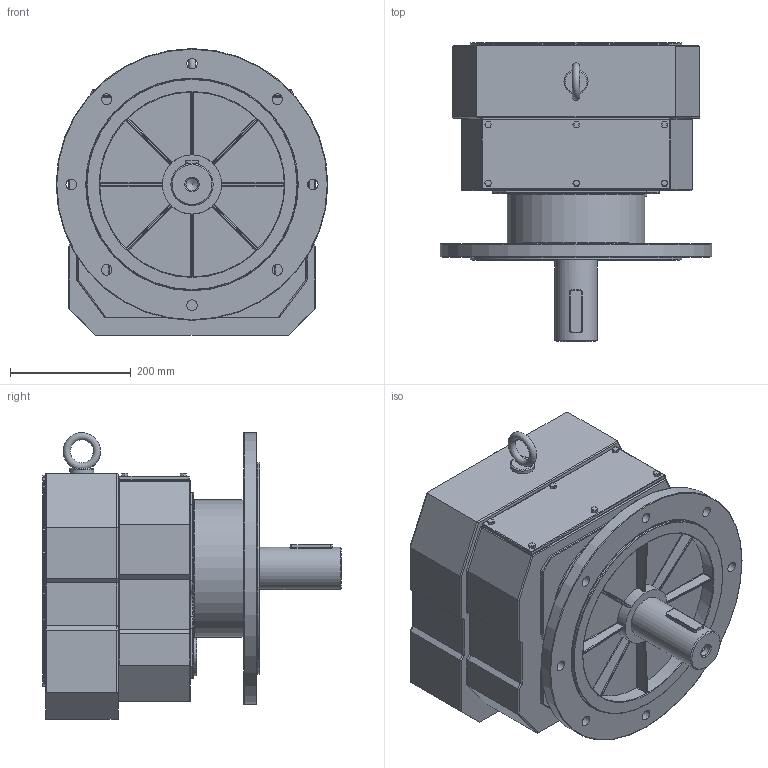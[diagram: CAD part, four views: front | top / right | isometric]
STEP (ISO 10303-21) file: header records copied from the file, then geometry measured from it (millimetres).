
FILE_DESCRIPTION((''),'2;1');
FILE_NAME('D:\PAWEŁ\ZLECENIA\2011 DualSystem\Przekładnie DR\DR100\STEP\DRF100_fi 450.stp','2012-06-11T12:26:32',('admin'),(''),'Autodesk Inventor 2009','Autodesk Inventor 2009','');
FILE_SCHEMA(('AUTOMOTIVE_DESIGN { 1 0 10303 214 1 1 1 1 }'));
Length unit declared in the file: millimetre
Products named in the file (1): DRF100_fi 450
Bounding box: 450 x 495 x 475 mm (x, y, z)
Volume: 42481155.1 mm3; surface area: 1192212.3 mm2
Topology: 2 solids, 2 shells, 508 faces, 1222 edges, 694 vertices
Faces by surface type: cylinder 231, plane 165, bspline 47, sphere 44, torus 19, cone 2
Full cylindrical faces by diameter (mm): 40 x1, 50 x1, 65 x1, 70 x1, 75 x1, 98 x1, 228 x1, 260 x1, 306 x1, 350 x2, 450 x1
Entity records: 17273 total; most frequent: CARTESIAN_POINT 5586, DIRECTION 2502, ORIENTED_EDGE 2272, EDGE_CURVE 1136, AXIS2_PLACEMENT_3D 947, VERTEX_POINT 681, VECTOR 608, LINE 608
